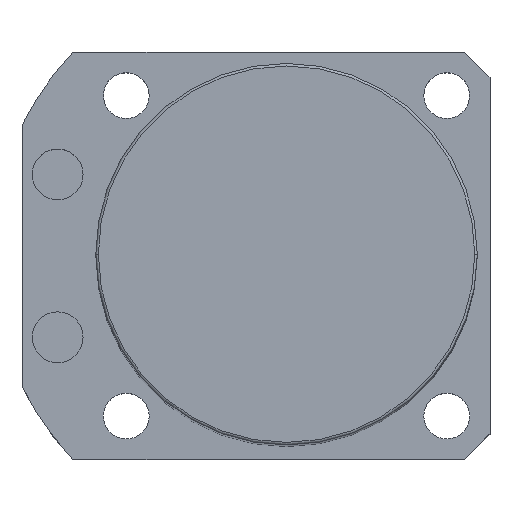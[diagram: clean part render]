
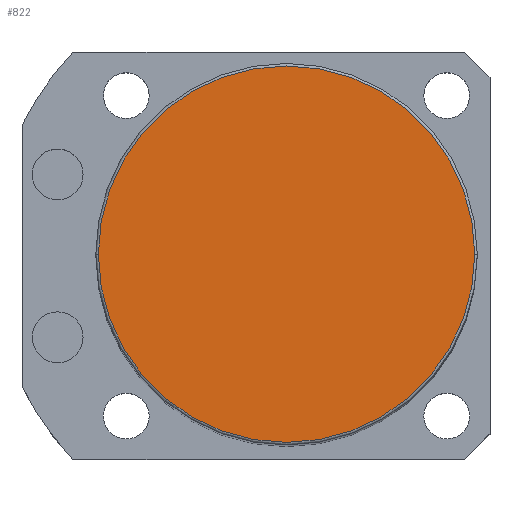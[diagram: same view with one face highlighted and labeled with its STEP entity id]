
A CAD part, top view. The second image highlights one B-rep face of the part: STEP entity #822.
In plain terms, the highlighted planar face has unit normal (0, 0, 1).
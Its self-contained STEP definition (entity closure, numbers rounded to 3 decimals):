
#188 = CARTESIAN_POINT ( 'NONE',  ( 37., 0., 205.5 ) ) ;
#228 = DIRECTION ( 'NONE',  ( 0., 0., 1. ) ) ;
#376 = PLANE ( 'NONE',  #2675 ) ;
#448 = VERTEX_POINT ( 'NONE', #1083 ) ;
#510 = DIRECTION ( 'NONE',  ( 1., 0., 0. ) ) ;
#572 = CARTESIAN_POINT ( 'NONE',  ( 0., 0., 205.5 ) ) ;
#625 = ORIENTED_EDGE ( 'NONE', *, *, #2277, .T. ) ;
#822 = ADVANCED_FACE ( 'NONE', ( #2722 ), #376, .T. ) ;
#834 = AXIS2_PLACEMENT_3D ( 'NONE', #2629, #228, #1120 ) ;
#949 = EDGE_LOOP ( 'NONE', ( #625, #1289 ) ) ;
#1083 = CARTESIAN_POINT ( 'NONE',  ( -37., 0., 205.5 ) ) ;
#1120 = DIRECTION ( 'NONE',  ( 1., 0., 0. ) ) ;
#1129 = CIRCLE ( 'NONE', #1265, 37. ) ;
#1265 = AXIS2_PLACEMENT_3D ( 'NONE', #2071, #1622, #510 ) ;
#1275 = DIRECTION ( 'NONE',  ( 1., 0., 0. ) ) ;
#1289 = ORIENTED_EDGE ( 'NONE', *, *, #1453, .T. ) ;
#1453 = EDGE_CURVE ( 'NONE', #448, #2151, #1684, .T. ) ;
#1482 = DIRECTION ( 'NONE',  ( 0., 0., 1. ) ) ;
#1622 = DIRECTION ( 'NONE',  ( 0., 0., 1. ) ) ;
#1684 = CIRCLE ( 'NONE', #834, 37. ) ;
#2071 = CARTESIAN_POINT ( 'NONE',  ( 0., 0., 205.5 ) ) ;
#2151 = VERTEX_POINT ( 'NONE', #188 ) ;
#2277 = EDGE_CURVE ( 'NONE', #2151, #448, #1129, .T. ) ;
#2629 = CARTESIAN_POINT ( 'NONE',  ( 0., 0., 205.5 ) ) ;
#2675 = AXIS2_PLACEMENT_3D ( 'NONE', #572, #1482, #1275 ) ;
#2722 = FACE_OUTER_BOUND ( 'NONE', #949, .T. ) ;
